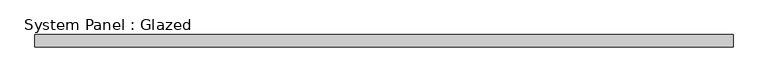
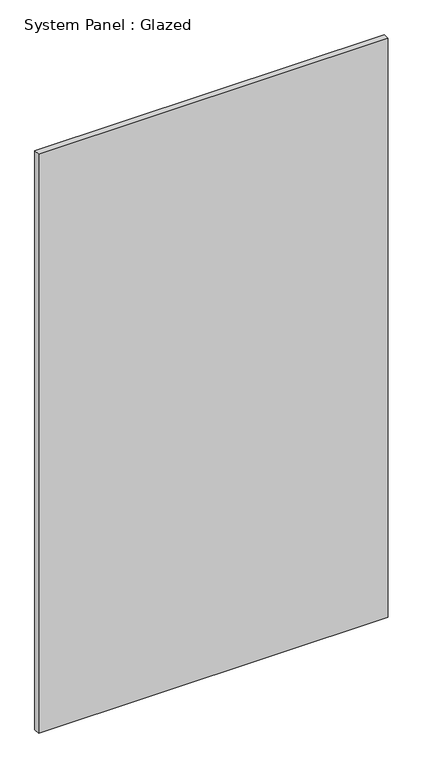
"""IFC4 building model written with IfcOpenShell, lengths in millimetres: plate geometry, System Panel : Glazed."""

from ifc_helpers import new_model, si_unit, origin, origin_with_axes, place, context, project, spatial, polyline, outline, extrude, source, transform, mapped, element, save


def system_panel_glazed_88f96f42(model_context):
    return source(origin(), model_context, "Body", "SweptSolid", [
        extrude(outline(polyline([(700.7125001, 24.5), (-700.7125001, 24.5), (-700.7125001, 49.5), (700.7125001, 49.5), (700.7125001, 24.5)])), origin_with_axes(), (0.0, 0.0, 1.0), 2450.0),
    ])


if __name__ == "__main__":
    model = new_model("IFC4")
    model_context = context("Model", 3, world=origin())
    ifc_project = project(units=[si_unit("LENGTHUNIT", "METRE", prefix="MILLI")], contexts=[model_context])
    site = spatial("IfcSite", under=ifc_project)
    building = spatial("IfcBuilding", under=site)
    placement = place(None, origin())
    system_panel_glazed_shape = system_panel_glazed_88f96f42(model_context)
    element("IfcPlate", 1, ObjectType="System Panel : Glazed", at=placement, inside=building, context=model_context, shape_type="MappedRepresentation", body=[
        mapped(system_panel_glazed_shape, transform((0.0, 0.0, 0.0), x_axis=(1.0, 0.0, 0.0), y_axis=(0.0, 1.0, 0.0), z_axis=(0.0, 0.0, 1.0))),
    ])
    save(model, "model.ifc")
